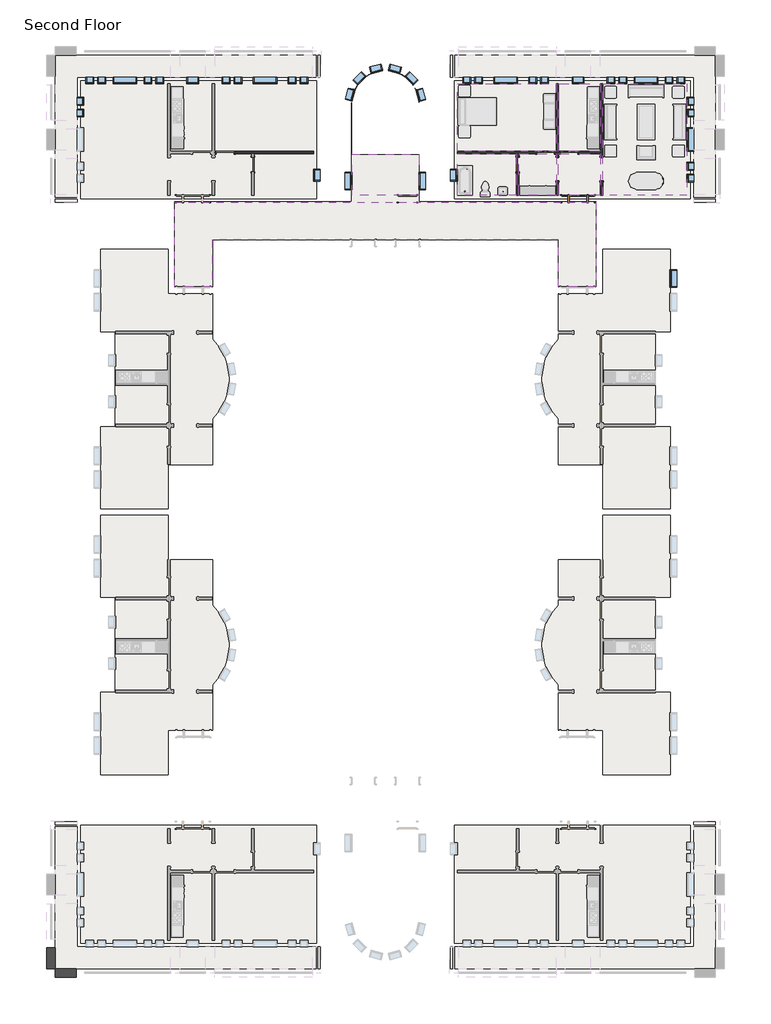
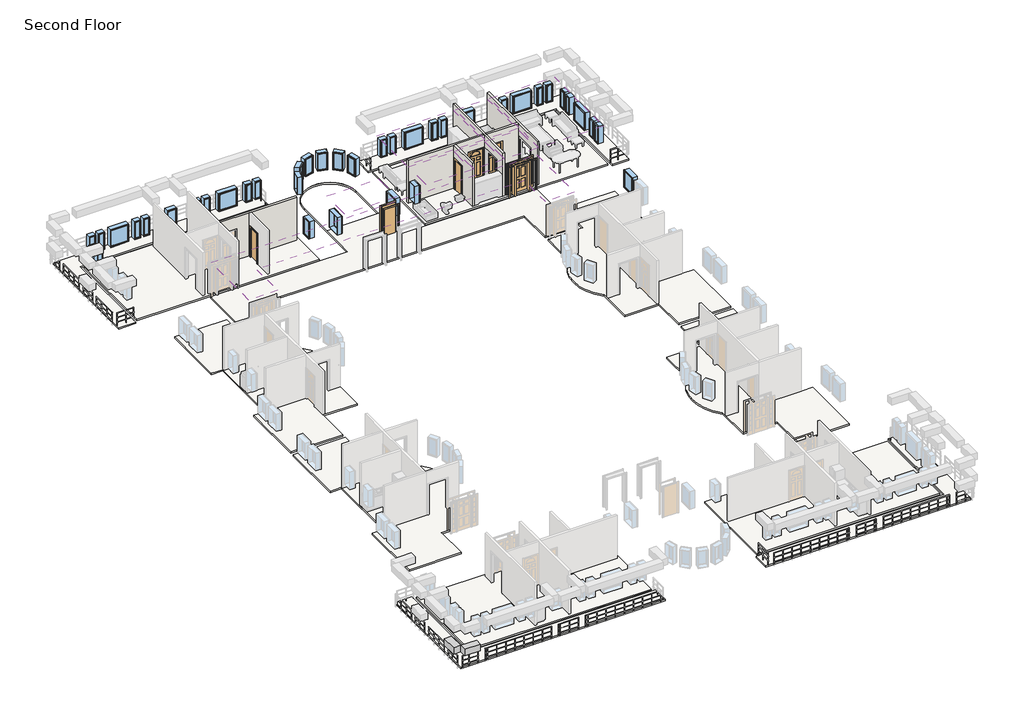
# One storey, part 3 of 5: 40 windows, 13 slabs, 8 coverings, 6 doors, 6 walls, 2 beams.
"""IFC4 building model written with IfcOpenShell, lengths in millimetres."""

from ifc_helpers import new_model, si_unit, point, frame, frame_2d, origin, place, context, project, spatial, polyline, circle_curve, trimmed, segment, composite_curve, outline, extrude, faceted_brep, transform, mapped, element, save
from components import door_829da954, door_2e3b4da2, door_4d6c7550, door_e36758a9, door_632be17d, door_dba5aa2e, window_da97879f, window_d61ef850, window_60baf983, window_ed80354a, window_15c49d37, window_0e2fc6ce, window_6eb97611, window_d89bf842

model = new_model("IFC4")

# Units and contexts
model_context = context("Model", 3, world=origin())
ifc_project = project(units=[si_unit("LENGTHUNIT", "METRE", prefix="MILLI")], contexts=[model_context])

# Site, building, storey
site = spatial("IfcSite", under=ifc_project)
building = spatial("IfcBuilding", under=site)
storey = spatial("IfcBuildingStorey", under=building, Name="Second Floor", Elevation=3048.0)

# Beams
placement = place(None, origin())
element("IfcBeam", 1, ObjectType="Concrete-Rectangular Beam : 18 x 18", at=placement, inside=storey, context=model_context, shape_type="SweptSolid", body=[
    extrude(outline(polyline([(-30897.4839563, -35349.9683133), (-30897.4839563, -35807.1683133), (-31964.2839563, -35807.1683133), (-31964.2839563, -35349.9683133), (-30897.4839563, -35349.9683133)])), frame((0.0, 0.0, 4114.8), z_axis=(0.0, 0.0, 1.0), x_axis=(1.0, 0.0, 0.0)), (0.0, 0.0, 1.0), 457.2),
])
element("IfcBeam", 2, ObjectType="Concrete-Rectangular Beam : 18 x 18", at=placement, inside=storey, context=model_context, shape_type="SweptSolid", body=[
    extrude(outline(polyline([(-32421.4839563, -34283.1683133), (-31964.2839563, -34283.1683133), (-31964.2839563, -35349.9683133), (-32421.4839563, -35349.9683133), (-32421.4839563, -34283.1683133)])), frame((0.0, 0.0, 4114.8), z_axis=(0.0, 0.0, 1.0), x_axis=(1.0, 0.0, 0.0)), (0.0, 0.0, 1.0), 457.2),
])

# Coverings
element("IfcCovering", 3, ObjectType="GWB on Mtl. Stud", at=placement, inside=storey, context=model_context, shape_type="SweptSolid", body=[
    extrude(outline(polyline([(-11217.2464563, 10270.0191867), (-6122.9589563, 10270.0191867), (-6122.9589563, 6787.0441867), (-11217.2464563, 6787.0441867), (-11217.2464563, 10270.0191867)])), frame((0.0, 0.0, 5638.8), z_axis=(0.0, 0.0, 1.0), x_axis=(1.0, 0.0, 0.0)), (0.0, 0.0, 1.0), 107.95),
])
element("IfcCovering", 4, ObjectType="GWB on Mtl. Stud", at=placement, inside=storey, context=model_context, shape_type="SweptSolid", body=[
    extrude(outline(polyline([(-5995.9589563, 6787.0441867), (-5995.9589563, 10270.0191867), (-3836.9589563, 10270.0191867), (-3836.9589563, 6787.0441867), (-5995.9589563, 6787.0441867)])), frame((0.0, 0.0, 5638.8), z_axis=(0.0, 0.0, 1.0), x_axis=(1.0, 0.0, 0.0)), (0.0, 0.0, 1.0), 107.95),
])
element("IfcCovering", 5, ObjectType="GWB on Mtl. Stud", at=placement, inside=storey, context=model_context, shape_type="SweptSolid", body=[
    extrude(outline(polyline([(-3709.9589563, 4526.4441867), (-3709.9589563, 10270.0191867), (622.3285437, 10270.0191867), (622.3285437, 4526.4441867), (-3709.9589563, 4526.4441867)])), frame((0.0, 0.0, 5638.8), z_axis=(0.0, 0.0, 1.0), x_axis=(1.0, 0.0, 0.0)), (0.0, 0.0, 1.0), 107.95),
])
element("IfcCovering", 6, ObjectType="GWB on Mtl. Stud", at=placement, inside=storey, context=model_context, shape_type="SweptSolid", body=[
    extrude(outline(polyline([(-3836.9589563, 4526.4441867), (-5995.9589563, 4526.4441867), (-5995.9589563, 6660.0441867), (-3836.9589563, 6660.0441867), (-3836.9589563, 4526.4441867)])), frame((0.0, 0.0, 5638.8), z_axis=(0.0, 0.0, 1.0), x_axis=(1.0, 0.0, 0.0)), (0.0, 0.0, 1.0), 107.95),
])
element("IfcCovering", 7, ObjectType="GWB on Mtl. Stud", at=placement, inside=storey, context=model_context, shape_type="SweptSolid", body=[
    extrude(outline(polyline([(-6122.9589563, 4526.4441867), (-8042.2464563, 4526.4441867), (-8042.2464563, 6660.0441867), (-6122.9589563, 6660.0441867), (-6122.9589563, 4526.4441867)])), frame((0.0, 0.0, 5638.8), z_axis=(0.0, 0.0, 1.0), x_axis=(1.0, 0.0, 0.0)), (0.0, 0.0, 1.0), 107.95),
])
element("IfcCovering", 8, ObjectType="GWB on Mtl. Stud", at=placement, inside=storey, context=model_context, shape_type="SweptSolid", body=[
    extrude(outline(polyline([(-8169.2464563, 6660.0441867), (-8169.2464563, 4526.4441867), (-11217.2464563, 4526.4441867), (-11217.2464563, 6660.0441867), (-8169.2464563, 6660.0441867)])), frame((0.0, 0.0, 5638.8), z_axis=(0.0, 0.0, 1.0), x_axis=(1.0, 0.0, 0.0)), (0.0, 0.0, 1.0), 107.95),
])
element("IfcCovering", 9, ObjectType="GWB on Mtl. Stud", at=placement, inside=storey, context=model_context, shape_type="SweptSolid", body=[
    extrude(outline(polyline([(-13206.3839563, 4526.4441867), (-16663.9589563, 4526.4441867), (-16663.9589563, 6636.2316867), (-13206.3839563, 6636.2316867), (-13206.3839563, 4526.4441867)])), frame((0.0, 0.0, 5486.4), z_axis=(0.0, 0.0, 1.0), x_axis=(1.0, 0.0, 0.0)), (0.0, 0.0, 1.0), 107.95),
])
element("IfcCovering", 10, ObjectType="GWB on Mtl. Stud", at=placement, inside=storey, context=model_context, shape_type="SweptSolid", body=[
    extrude(outline(polyline([(-5995.9589563, -197.9558133), (-5995.9589563, 2240.4441867), (-23874.3839563, 2240.4441867), (-23874.3839563, -197.9558133), (-25807.9589563, -197.9558133), (-25807.9589563, 4174.0191867), (-4062.3839563, 4174.0191867), (-4062.3839563, -197.9558133), (-5995.9589563, -197.9558133)])), frame((0.0, 0.0, 5486.4), z_axis=(0.0, 0.0, 1.0), x_axis=(1.0, 0.0, 0.0)), (0.0, 0.0, 1.0), 107.95),
])

# Doors
door_shape = door_829da954(model_context)
element("IfcDoor", 11, ObjectType="Single-Decorative 2 : 36\" x 84\"", at=placement, inside=storey, context=model_context, shape_type="MappedRepresentation", body=[
    mapped(door_shape, transform((-5449.8589563, 6723.5441867, 3048.0), x_axis=(-1.0, 0.0, 0.0), y_axis=(0.0, -1.0, 0.0), z_axis=(0.0, 0.0, 1.0))),
])
door_2_shape = door_2e3b4da2(model_context)
element("IfcDoor", 12, ObjectType="Single-Decorative 2 : 36\" x 84\"", at=placement, inside=storey, context=model_context, shape_type="MappedRepresentation", body=[
    mapped(door_2_shape, transform((-6669.0589563, 6723.5441867, 3048.0), x_axis=(1.0, 0.0, 0.0), y_axis=(0.0, 1.0, 0.0), z_axis=(0.0, 0.0, 1.0))),
])
door_3_shape = door_4d6c7550(model_context)
element("IfcDoor", 13, ObjectType="Single-Flush : 30\" x 84\"", at=placement, inside=storey, context=model_context, shape_type="MappedRepresentation", body=[
    mapped(door_3_shape, transform((-8105.7464563, 6113.9441867, 3048.0), x_axis=(0.0, 1.0, 0.0), y_axis=(-1.0, 0.0, 0.0), z_axis=(0.0, 0.0, 1.0))),
])
door_4_shape = door_e36758a9(model_context)
element("IfcDoor", 14, ObjectType="Single-Flush : 30\" x 84\"", at=placement, inside=storey, context=model_context, shape_type="MappedRepresentation", body=[
    mapped(door_4_shape, transform((-21764.5964563, 6113.9441867, 3048.0), x_axis=(0.0, 1.0, 0.0), y_axis=(-1.0, 0.0, 0.0), z_axis=(0.0, 0.0, 1.0))),
])
door_5_shape = door_632be17d(model_context)
element("IfcDoor", 15, ObjectType="Single-Flush : 36\" x 84\"", at=placement, inside=storey, context=model_context, shape_type="MappedRepresentation", body=[
    mapped(door_5_shape, transform((-13792.1714563, 4350.2316867, 3048.0), x_axis=(1.0, 0.0, 0.0), y_axis=(0.0, 1.0, 0.0), z_axis=(0.0, 0.0, 1.0))),
])
door_6_shape = door_dba5aa2e(model_context)
element("IfcDoor", 16, ObjectType="Single-Raised Panel with Sidelights : 36\" x 84\"", at=placement, inside=storey, context=model_context, shape_type="MappedRepresentation", body=[
    mapped(door_6_shape, transform((-4992.6589563, 4350.2316867, 3048.0), x_axis=(-1.0, 0.0, 0.0), y_axis=(0.0, -1.0, 0.0), z_axis=(0.0, 0.0, 1.0))),
])

# Slabs
element("IfcSlab", 17, ObjectType="LW Concrete on Metal Deck", at=placement, inside=storey, context=model_context, shape_type="SweptSolid", body=[
    extrude(outline(polyline([(787.4285437, 10435.1191867), (787.4285437, 4361.3441867), (-11382.3464563, 4361.3441867), (-11382.3464563, 10435.1191867), (787.4285437, 10435.1191867)])), frame((0.0, 0.0, 2943.225), z_axis=(0.0, 0.0, 1.0), x_axis=(1.0, 0.0, 0.0)), (0.0, 0.0, 1.0), 104.775),
])
element("IfcSlab", 18, ObjectType="LW Concrete on Metal Deck", at=placement, inside=storey, context=model_context, shape_type="SweptSolid", body=[
    extrude(outline(polyline([(2093.9410437, 11741.6316867), (2093.9410437, 4174.0191867), (974.7535437, 4174.0191867), (974.7535437, 10622.4441867), (-11569.6714563, 10622.4441867), (-11569.6714563, 11741.6316867), (2093.9410437, 11741.6316867)])), frame((0.0, 0.0, 2943.225), z_axis=(0.0, 0.0, 1.0), x_axis=(1.0, 0.0, 0.0)), (0.0, 0.0, 1.0), 104.775),
])
element("IfcSlab", 19, ObjectType="LW Concrete on Metal Deck", at=placement, inside=storey, context=model_context, shape_type="SweptSolid", body=[
    extrude(outline(composite_curve([segment(polyline([(-13193.6839563, 9227.0316867), (-13193.6839563, 4186.7191867), (-4062.3839563, 4186.7191867), (-4062.3839563, -197.9558133), (-6008.6589563, -197.9558133), (-6008.6589563, 2227.7441867), (-23861.6839563, 2227.7441867), (-23861.6839563, -197.9558133), (-25807.9589563, -197.9558133), (-25807.9589563, 4186.7191867), (-16676.6589563, 4186.7191867), (-16676.6589563, 9227.0316867)]), True, "CONTINUOUS"), segment(trimmed(circle_curve(frame_2d((-14935.1714563, 9227.0316867)), 1741.4875), [point((-16676.6589563, 9227.0316867))], [point((-13193.6839563, 9227.0316867))], False, "CARTESIAN"), True, "CONTINUOUS")], self_intersect=False), holes=[composite_curve([segment(polyline([(-16663.9589563, 6636.2316867), (-13206.3839563, 6636.2316867), (-13206.3839563, 9227.0316867)]), True, "CONTINUOUS"), segment(trimmed(circle_curve(frame_2d((-14935.1714563, 9227.0316867)), 1728.7875), [point((-13206.3839563, 9227.0316867))], [point((-16663.9589563, 9227.0316867))], True, "CARTESIAN"), True, "CONTINUOUS"), segment(polyline([(-16663.9589563, 9227.0316867), (-16663.9589563, 6636.2316867)]), True, "CONTINUOUS")], self_intersect=False)]), frame((0.0, 0.0, 2943.225), z_axis=(0.0, 0.0, 1.0), x_axis=(1.0, 0.0, 0.0)), (0.0, 0.0, 1.0), 104.775),
])
element("IfcSlab", 20, ObjectType="LW Concrete on Metal Deck", at=placement, inside=storey, context=model_context, shape_type="SweptSolid", body=[
    extrude(outline(composite_curve([segment(polyline([(-239.6839563, -7395.6808133), (-239.6839563, -11640.6558133), (-3722.6589563, -11640.6558133), (-3722.6589563, -9354.6558133), (-6008.6589563, -9354.6558133), (-6008.6589563, -6994.1453152)]), True, "CONTINUOUS"), segment(trimmed(circle_curve(frame_2d((-3995.4640713, -4946.1683133)), 2871.7875), [point((-6008.6589563, -6994.1453152))], [point((-6008.6589563, -2898.1913115))], False, "CARTESIAN"), True, "CONTINUOUS"), segment(polyline([(-6008.6589563, -2898.1913115), (-6008.6589563, -537.6808133), (-3722.6589563, -537.6808133), (-3722.6589563, 1748.3191867), (-239.6839563, 1748.3191867), (-239.6839563, -2496.6558133), (-1001.6839563, -2496.6558133), (-1001.6839563, -7395.6808133), (-239.6839563, -7395.6808133)]), True, "CONTINUOUS")], self_intersect=False)), frame((0.0, 0.0, 2943.225), z_axis=(0.0, 0.0, 1.0), x_axis=(1.0, 0.0, 0.0)), (0.0, 0.0, 1.0), 104.775),
])
element("IfcSlab", 21, ObjectType="LW Concrete on Metal Deck", at=placement, inside=storey, context=model_context, shape_type="SweptSolid", body=[
    extrude(outline(polyline([(-30657.7714563, 10435.1191867), (-18487.9964563, 10435.1191867), (-18487.9964563, 4361.3441867), (-30657.7714563, 4361.3441867), (-30657.7714563, 10435.1191867)])), frame((0.0, 0.0, 2943.225), z_axis=(0.0, 0.0, 1.0), x_axis=(1.0, 0.0, 0.0)), (0.0, 0.0, 1.0), 104.775),
])
element("IfcSlab", 22, ObjectType="LW Concrete on Metal Deck", at=placement, inside=storey, context=model_context, shape_type="SweptSolid", body=[
    extrude(outline(composite_curve([segment(polyline([(-29630.6589563, -7395.6808133), (-28868.6589563, -7395.6808133), (-28868.6589563, -2496.6558133), (-29630.6589563, -2496.6558133), (-29630.6589563, 1748.3191867), (-26147.6839563, 1748.3191867), (-26147.6839563, -537.6808133), (-23861.6839563, -537.6808133), (-23861.6839563, -2898.1913115)]), True, "CONTINUOUS"), segment(trimmed(circle_curve(frame_2d((-25874.8788413, -4946.1683133)), 2871.7875), [point((-23861.6839563, -2898.1913115))], [point((-23861.6839563, -6994.1453152))], False, "CARTESIAN"), True, "CONTINUOUS"), segment(polyline([(-23861.6839563, -6994.1453152), (-23861.6839563, -9354.6558133), (-26147.6839563, -9354.6558133), (-26147.6839563, -11640.6558133), (-29630.6589563, -11640.6558133), (-29630.6589563, -7395.6808133)]), True, "CONTINUOUS")], self_intersect=False)), frame((0.0, 0.0, 2943.225), z_axis=(0.0, 0.0, 1.0), x_axis=(1.0, 0.0, 0.0)), (0.0, 0.0, 1.0), 104.775),
])
element("IfcSlab", 23, ObjectType="LW Concrete on Metal Deck", at=placement, inside=storey, context=model_context, shape_type="SweptSolid", body=[
    extrude(outline(polyline([(-31964.2839563, 11741.6316867), (-18300.6714563, 11741.6316867), (-18300.6714563, 10622.4441867), (-30845.0964563, 10622.4441867), (-30845.0964563, 4174.0191867), (-31964.2839563, 4174.0191867), (-31964.2839563, 11741.6316867)])), frame((0.0, 0.0, 2943.225), z_axis=(0.0, 0.0, 1.0), x_axis=(1.0, 0.0, 0.0)), (0.0, 0.0, 1.0), 104.775),
])
element("IfcSlab", 24, ObjectType="LW Concrete on Metal Deck", at=placement, inside=storey, context=model_context, shape_type="SweptSolid", body=[
    extrude(outline(polyline([(787.4285437, -34043.4558133), (-11382.3464563, -34043.4558133), (-11382.3464563, -27969.6808133), (787.4285437, -27969.6808133), (787.4285437, -34043.4558133)])), frame((0.0, 0.0, 2943.225), z_axis=(0.0, 0.0, 1.0), x_axis=(1.0, 0.0, 0.0)), (0.0, 0.0, 1.0), 104.775),
])
element("IfcSlab", 25, ObjectType="LW Concrete on Metal Deck", at=placement, inside=storey, context=model_context, shape_type="SweptSolid", body=[
    extrude(outline(composite_curve([segment(polyline([(-239.6839563, -16212.6558133), (-1001.6839563, -16212.6558133), (-1001.6839563, -21111.6808133), (-239.6839563, -21111.6808133), (-239.6839563, -25356.6558133), (-3722.6589563, -25356.6558133), (-3722.6589563, -23070.6558133), (-6008.6589563, -23070.6558133), (-6008.6589563, -20710.1453152)]), True, "CONTINUOUS"), segment(trimmed(circle_curve(frame_2d((-3995.4640713, -18662.1683133)), 2871.7875), [point((-6008.6589563, -20710.1453152))], [point((-6008.6589563, -16614.1913115))], False, "CARTESIAN"), True, "CONTINUOUS"), segment(polyline([(-6008.6589563, -16614.1913115), (-6008.6589563, -14253.6808133), (-3722.6589563, -14253.6808133), (-3722.6589563, -11967.6808133), (-239.6839563, -11967.6808133), (-239.6839563, -16212.6558133)]), True, "CONTINUOUS")], self_intersect=False)), frame((0.0, 0.0, 2943.225), z_axis=(0.0, 0.0, 1.0), x_axis=(1.0, 0.0, 0.0)), (0.0, 0.0, 1.0), 104.775),
])
element("IfcSlab", 26, ObjectType="LW Concrete on Metal Deck", at=placement, inside=storey, context=model_context, shape_type="SweptSolid", body=[
    extrude(outline(polyline([(-30657.7714563, -34043.4558133), (-30657.7714563, -27969.6808133), (-18487.9964563, -27969.6808133), (-18487.9964563, -34043.4558133), (-30657.7714563, -34043.4558133)])), frame((0.0, 0.0, 2943.225), z_axis=(0.0, 0.0, 1.0), x_axis=(1.0, 0.0, 0.0)), (0.0, 0.0, 1.0), 104.775),
])
element("IfcSlab", 27, ObjectType="LW Concrete on Metal Deck", at=placement, inside=storey, context=model_context, shape_type="SweptSolid", body=[
    extrude(outline(composite_curve([segment(polyline([(-29630.6589563, -16212.6558133), (-29630.6589563, -11967.6808133), (-26147.6839563, -11967.6808133), (-26147.6839563, -14253.6808133), (-23861.6839563, -14253.6808133), (-23861.6839563, -16614.1913115)]), True, "CONTINUOUS"), segment(trimmed(circle_curve(frame_2d((-25874.8788413, -18662.1683133)), 2871.7875), [point((-23861.6839563, -16614.1913115))], [point((-23861.6839563, -20710.1453152))], False, "CARTESIAN"), True, "CONTINUOUS"), segment(polyline([(-23861.6839563, -20710.1453152), (-23861.6839563, -23070.6558133), (-26147.6839563, -23070.6558133), (-26147.6839563, -25356.6558133), (-29630.6589563, -25356.6558133), (-29630.6589563, -21111.6808133), (-28868.6589563, -21111.6808133), (-28868.6589563, -16212.6558133), (-29630.6589563, -16212.6558133)]), True, "CONTINUOUS")], self_intersect=False)), frame((0.0, 0.0, 2943.225), z_axis=(0.0, 0.0, 1.0), x_axis=(1.0, 0.0, 0.0)), (0.0, 0.0, 1.0), 104.775),
])
element("IfcSlab", 28, ObjectType="LW Concrete on Metal Deck", at=placement, inside=storey, context=model_context, shape_type="SweptSolid", body=[
    extrude(outline(polyline([(2093.9410437, -35349.9683133), (-11569.6714563, -35349.9683133), (-11569.6714563, -34230.7808133), (974.7535437, -34230.7808133), (974.7535437, -27782.3558133), (2093.9410437, -27782.3558133), (2093.9410437, -35349.9683133)])), frame((0.0, 0.0, 2943.225), z_axis=(0.0, 0.0, 1.0), x_axis=(1.0, 0.0, 0.0)), (0.0, 0.0, 1.0), 104.775),
])
element("IfcSlab", 29, ObjectType="LW Concrete on Metal Deck", at=placement, inside=storey, context=model_context, shape_type="SweptSolid", body=[
    extrude(outline(polyline([(-31964.2839563, -35349.9683133), (-31964.2839563, -27782.3558133), (-30845.0964563, -27782.3558133), (-30845.0964563, -34230.7808133), (-18300.6714563, -34230.7808133), (-18300.6714563, -35349.9683133), (-31964.2839563, -35349.9683133)])), frame((0.0, 0.0, 2943.225), z_axis=(0.0, 0.0, 1.0), x_axis=(1.0, 0.0, 0.0)), (0.0, 0.0, 1.0), 104.775),
])

# Walls
element("IfcWall", 30, ObjectType="Interior - 5\" Partition (2-hr)", at=placement, inside=storey, context=model_context, shape_type="Brep", body=[
    faceted_brep([(-3836.9589563, 10270.0191867, 3048.0), (-3836.9589563, 6787.0441867, 3048.0), (-3836.9589563, 6660.0441867, 3048.0), (-3836.9589563, 6483.8316867, 3048.0), (-3836.9589563, 6483.8316867, 5181.6), (-3836.9589563, 5264.6316867, 5181.6), (-3836.9589563, 5264.6316867, 3048.0), (-3836.9589563, 4526.4441867, 3048.0), (-3836.9589563, 4526.4441867, 6096.0), (-3836.9589563, 6660.0441867, 6096.0), (-3836.9589563, 6787.0441867, 6096.0), (-3836.9589563, 10270.0191867, 6096.0), (-3709.9589563, 6483.8316867, 5181.6), (-3709.9589563, 6483.8316867, 3048.0), (-3709.9589563, 10270.0191867, 3048.0), (-3709.9589563, 10270.0191867, 6096.0), (-3709.9589563, 4526.4441867, 6096.0), (-3709.9589563, 4526.4441867, 3048.0), (-3709.9589563, 5264.6316867, 3048.0), (-3709.9589563, 5264.6316867, 5181.6)], [[[0, 1, 2, 3, 4, 5, 6, 7, 8, 9, 10, 11]], [[12, 13, 14, 15, 16, 17, 18, 19]], [[14, 13, 3, 2, 1, 0]], [[18, 17, 7, 6]], [[11, 10, 9, 8, 16, 15]], [[0, 11, 15, 14]], [[8, 7, 17, 16]], [[6, 5, 19, 18]], [[4, 3, 13, 12]], [[5, 4, 12, 19]]]),
])
element("IfcWall", 31, ObjectType="Interior - 5\" Partition (2-hr)", at=placement, inside=storey, context=model_context, shape_type="Brep", body=[
    faceted_brep([(-6122.9589563, 4526.4441867, 3048.0), (-6122.9589563, 5264.6316867, 3048.0), (-5995.9589563, 5264.6316867, 3048.0), (-5995.9589563, 4526.4441867, 3048.0), (-6122.9589563, 6483.8316867, 3048.0), (-6122.9589563, 6660.0441867, 3048.0), (-6122.9589563, 6787.0441867, 3048.0), (-6122.9589563, 10270.0191867, 3048.0), (-5995.9589563, 10270.0191867, 3048.0), (-5995.9589563, 6787.0441867, 3048.0), (-5995.9589563, 6660.0441867, 3048.0), (-5995.9589563, 6483.8316867, 3048.0), (-6122.9589563, 10270.0191867, 6096.0), (-6122.9589563, 6787.0441867, 6096.0), (-6122.9589563, 6660.0441867, 6096.0), (-6122.9589563, 4526.4441867, 6096.0), (-5995.9589563, 4526.4441867, 6096.0), (-5995.9589563, 6660.0441867, 6096.0), (-5995.9589563, 6787.0441867, 6096.0), (-5995.9589563, 10270.0191867, 6096.0), (-6122.9589563, 5264.6316867, 5181.6), (-6122.9589563, 6483.8316867, 5181.6), (-5995.9589563, 5264.6316867, 5181.6), (-5995.9589563, 6483.8316867, 5181.6)], [[[0, 1, 2, 3]], [[4, 5, 6, 7, 8, 9, 10, 11]], [[12, 13, 14, 15, 16, 17, 18, 19]], [[20, 1, 0, 15, 14, 13, 12, 7, 6, 5, 4, 21]], [[3, 2, 22, 23, 11, 10, 9, 8, 19, 18, 17, 16]], [[7, 12, 19, 8]], [[15, 0, 3, 16]], [[11, 23, 21, 4]], [[22, 2, 1, 20]], [[23, 22, 20, 21]]]),
])
element("IfcWall", 32, ObjectType="Interior - 5\" Partition (2-hr)", at=placement, inside=storey, context=model_context, shape_type="Brep", body=[
    faceted_brep([(-6122.9589563, 6660.0441867, 3048.0), (-6211.8589563, 6660.0441867, 3048.0), (-6211.8589563, 6787.0441867, 3048.0), (-6122.9589563, 6787.0441867, 3048.0), (-7126.2589563, 6660.0441867, 3048.0), (-8042.2464563, 6660.0441867, 3048.0), (-8169.2464563, 6660.0441867, 3048.0), (-11217.2464563, 6660.0441867, 3048.0), (-11217.2464563, 6787.0441867, 3048.0), (-7126.2589563, 6787.0441867, 3048.0), (-11217.2464563, 6660.0441867, 6096.0), (-8169.2464563, 6660.0441867, 6096.0), (-8042.2464563, 6660.0441867, 6096.0), (-6122.9589563, 6660.0441867, 6096.0), (-6122.9589563, 6787.0441867, 6096.0), (-11217.2464563, 6787.0441867, 6096.0), (-6211.8589563, 6660.0441867, 5181.6), (-7126.2589563, 6660.0441867, 5181.6), (-6211.8589563, 6787.0441867, 5181.6), (-7126.2589563, 6787.0441867, 5181.6)], [[[0, 1, 2, 3]], [[4, 5, 6, 7, 8, 9]], [[10, 11, 12, 13, 14, 15]], [[16, 1, 0, 13, 12, 11, 10, 7, 6, 5, 4, 17]], [[3, 2, 18, 19, 9, 8, 15, 14]], [[13, 0, 3, 14]], [[7, 10, 15, 8]], [[18, 2, 1, 16]], [[19, 18, 16, 17]], [[9, 19, 17, 4]]]),
])
element("IfcWall", 33, ObjectType="Interior - 5\" Partition (2-hr)", at=placement, inside=storey, context=model_context, shape_type="SweptSolid", body=[
    extrude(outline(polyline([(6660.0441867, 3048.0), (6494.9441867, 3048.0), (6494.9441867, 5181.6), (5732.9441867, 5181.6), (5732.9441867, 3048.0), (4526.4441867, 3048.0), (4526.4441867, 6096.0), (6660.0441867, 6096.0), (6660.0441867, 3048.0)])), frame((-8169.2464563, 0.0, 0.0), z_axis=(1.0, 0.0, 0.0), x_axis=(0.0, 1.0, 0.0)), (0.0, 0.0, 1.0), 127.0),
])
element("IfcWall", 34, ObjectType="Interior - 5\" Partition (2-hr)", at=placement, inside=storey, context=model_context, shape_type="SweptSolid", body=[
    extrude(outline(polyline([(3048.0, -5995.9589563), (3048.0, -5907.0589563), (5181.6, -5907.0589563), (5181.6, -4992.6589563), (3048.0, -4992.6589563), (3048.0, -3836.9589563), (6096.0, -3836.9589563), (6096.0, -5995.9589563), (3048.0, -5995.9589563)])), frame((0.0, 6660.0441867, 0.0), z_axis=(0.0, 1.0, 0.0), x_axis=(0.0, 0.0, 1.0)), (0.0, 0.0, 1.0), 127.0),
])
element("IfcWall", 35, ObjectType="Interior - 5\" Partition (2-hr)", at=placement, inside=storey, context=model_context, shape_type="Brep", body=[
    faceted_brep([(-23658.4839563, 6787.0441867, 5181.6), (-23658.4839563, 6787.0441867, 3048.0), (-23747.3839563, 6787.0441867, 3048.0), (-23747.3839563, 6787.0441867, 6096.0), (-18653.0964563, 6787.0441867, 6096.0), (-18653.0964563, 6787.0441867, 3048.0), (-22744.0839563, 6787.0441867, 3048.0), (-22744.0839563, 6787.0441867, 5181.6), (-23747.3839563, 6660.0441867, 3048.0), (-23658.4839563, 6660.0441867, 3048.0), (-23658.4839563, 6660.0441867, 5181.6), (-22744.0839563, 6660.0441867, 5181.6), (-22744.0839563, 6660.0441867, 3048.0), (-21828.0964563, 6660.0441867, 3048.0), (-21701.0964563, 6660.0441867, 3048.0), (-18653.0964563, 6660.0441867, 3048.0), (-18653.0964563, 6660.0441867, 6096.0), (-21701.0964563, 6660.0441867, 6096.0), (-21828.0964563, 6660.0441867, 6096.0), (-23747.3839563, 6660.0441867, 6096.0)], [[[0, 1, 2, 3, 4, 5, 6, 7]], [[8, 9, 10, 11, 12, 13, 14, 15, 16, 17, 18, 19]], [[2, 1, 9, 8]], [[6, 5, 15, 14, 13, 12]], [[4, 3, 19, 18, 17, 16]], [[3, 2, 8, 19]], [[5, 4, 16, 15]], [[10, 9, 1, 0]], [[11, 10, 0, 7]], [[12, 11, 7, 6]]]),
])

# Windows
window_shape = window_da97879f(model_context)
element("IfcWindow", 36, ObjectType="Fixed : 16\" x 48\"", at=placement, inside=storey, context=model_context, shape_type="MappedRepresentation", body=[
    mapped(window_shape, transform((-10771.1589563, 10446.2316867, 3048.0), x_axis=(-1.0, 0.0, 0.0), y_axis=(0.0, -1.0, 0.0), z_axis=(0.0, 0.0, 1.0))),
])
element("IfcWindow", 37, ObjectType="Fixed : 16\" x 48\"", at=placement, inside=storey, context=model_context, shape_type="MappedRepresentation", body=[
    mapped(window_shape, transform((-10161.5589563, 10446.2316867, 3048.0), x_axis=(-1.0, 0.0, 0.0), y_axis=(0.0, -1.0, 0.0), z_axis=(0.0, 0.0, 1.0))),
])
element("IfcWindow", 38, ObjectType="Fixed : 16\" x 48\"", at=placement, inside=storey, context=model_context, shape_type="MappedRepresentation", body=[
    mapped(window_shape, transform((-3328.9589563, 10446.2316867, 3048.0), x_axis=(-1.0, 0.0, 0.0), y_axis=(0.0, -1.0, 0.0), z_axis=(0.0, 0.0, 1.0))),
])
element("IfcWindow", 39, ObjectType="Fixed : 16\" x 48\"", at=placement, inside=storey, context=model_context, shape_type="MappedRepresentation", body=[
    mapped(window_shape, transform((-2719.3589563, 10446.2316867, 3048.0), x_axis=(-1.0, 0.0, 0.0), y_axis=(0.0, -1.0, 0.0), z_axis=(0.0, 0.0, 1.0))),
])
element("IfcWindow", 40, ObjectType="Fixed : 16\" x 48\"", at=placement, inside=storey, context=model_context, shape_type="MappedRepresentation", body=[
    mapped(window_shape, transform((798.5410437, 9417.5316867, 3048.0), x_axis=(0.0, 1.0, 0.0), y_axis=(-1.0, 0.0, 0.0), z_axis=(0.0, 0.0, 1.0))),
])
element("IfcWindow", 41, ObjectType="Fixed : 16\" x 48\"", at=placement, inside=storey, context=model_context, shape_type="MappedRepresentation", body=[
    mapped(window_shape, transform((798.5410437, 8807.9316867, 3048.0), x_axis=(0.0, 1.0, 0.0), y_axis=(-1.0, 0.0, 0.0), z_axis=(0.0, 0.0, 1.0))),
])
element("IfcWindow", 42, ObjectType="Fixed : 16\" x 48\"", at=placement, inside=storey, context=model_context, shape_type="MappedRepresentation", body=[
    mapped(window_shape, transform((-23188.5839563, 10446.2316867, 3048.0), x_axis=(-1.0, 0.0, 0.0), y_axis=(0.0, -1.0, 0.0), z_axis=(0.0, 0.0, 1.0))),
])
element("IfcWindow", 43, ObjectType="Fixed : 16\" x 48\"", at=placement, inside=storey, context=model_context, shape_type="MappedRepresentation", body=[
    mapped(window_shape, transform((-22578.9839563, 10446.2316867, 3048.0), x_axis=(-1.0, 0.0, 0.0), y_axis=(0.0, -1.0, 0.0), z_axis=(0.0, 0.0, 1.0))),
])
element("IfcWindow", 44, ObjectType="Fixed : 16\" x 48\"", at=placement, inside=storey, context=model_context, shape_type="MappedRepresentation", body=[
    mapped(window_shape, transform((-30224.3839563, 10446.2316867, 3048.0), x_axis=(-1.0, 0.0, 0.0), y_axis=(0.0, -1.0, 0.0), z_axis=(0.0, 0.0, 1.0))),
])
element("IfcWindow", 45, ObjectType="Fixed : 16\" x 48\"", at=placement, inside=storey, context=model_context, shape_type="MappedRepresentation", body=[
    mapped(window_shape, transform((-29614.7839563, 10446.2316867, 3048.0), x_axis=(-1.0, 0.0, 0.0), y_axis=(0.0, -1.0, 0.0), z_axis=(0.0, 0.0, 1.0))),
])
window_2_shape = window_d61ef850(model_context)
element("IfcWindow", 46, ObjectType="Fixed : 16\" x 48\"", at=placement, inside=storey, context=model_context, shape_type="MappedRepresentation", body=[
    mapped(window_2_shape, transform((-6681.7589563, 10446.2316867, 3048.0), x_axis=(1.0, 0.0, 0.0), y_axis=(0.0, 1.0, 0.0), z_axis=(0.0, 0.0, 1.0))),
])
element("IfcWindow", 47, ObjectType="Fixed : 16\" x 48\"", at=placement, inside=storey, context=model_context, shape_type="MappedRepresentation", body=[
    mapped(window_2_shape, transform((-7291.3589563, 10446.2316867, 3048.0), x_axis=(1.0, 0.0, 0.0), y_axis=(0.0, 1.0, 0.0), z_axis=(0.0, 0.0, 1.0))),
])
element("IfcWindow", 48, ObjectType="Fixed : 16\" x 48\"", at=placement, inside=storey, context=model_context, shape_type="MappedRepresentation", body=[
    mapped(window_2_shape, transform((354.0410437, 10446.2316867, 3048.0), x_axis=(1.0, 0.0, 0.0), y_axis=(0.0, 1.0, 0.0), z_axis=(0.0, 0.0, 1.0))),
])
element("IfcWindow", 49, ObjectType="Fixed : 16\" x 48\"", at=placement, inside=storey, context=model_context, shape_type="MappedRepresentation", body=[
    mapped(window_2_shape, transform((-255.5589563, 10446.2316867, 3048.0), x_axis=(1.0, 0.0, 0.0), y_axis=(0.0, 1.0, 0.0), z_axis=(0.0, 0.0, 1.0))),
])
element("IfcWindow", 50, ObjectType="Fixed : 16\" x 48\"", at=placement, inside=storey, context=model_context, shape_type="MappedRepresentation", body=[
    mapped(window_2_shape, transform((798.5410437, 5378.9316867, 3048.0), x_axis=(0.0, -1.0, 0.0), y_axis=(1.0, 0.0, 0.0), z_axis=(0.0, 0.0, 1.0))),
])
element("IfcWindow", 51, ObjectType="Fixed : 16\" x 48\"", at=placement, inside=storey, context=model_context, shape_type="MappedRepresentation", body=[
    mapped(window_2_shape, transform((798.5410437, 5988.5316867, 3048.0), x_axis=(0.0, -1.0, 0.0), y_axis=(1.0, 0.0, 0.0), z_axis=(0.0, 0.0, 1.0))),
])
element("IfcWindow", 52, ObjectType="Fixed : 16\" x 48\"", at=placement, inside=storey, context=model_context, shape_type="MappedRepresentation", body=[
    mapped(window_2_shape, transform((-19099.1839563, 10446.2316867, 3048.0), x_axis=(1.0, 0.0, 0.0), y_axis=(0.0, 1.0, 0.0), z_axis=(0.0, 0.0, 1.0))),
])
element("IfcWindow", 53, ObjectType="Fixed : 16\" x 48\"", at=placement, inside=storey, context=model_context, shape_type="MappedRepresentation", body=[
    mapped(window_2_shape, transform((-19708.7839563, 10446.2316867, 3048.0), x_axis=(1.0, 0.0, 0.0), y_axis=(0.0, 1.0, 0.0), z_axis=(0.0, 0.0, 1.0))),
])
element("IfcWindow", 54, ObjectType="Fixed : 16\" x 48\"", at=placement, inside=storey, context=model_context, shape_type="MappedRepresentation", body=[
    mapped(window_2_shape, transform((-26541.3839563, 10446.2316867, 3048.0), x_axis=(1.0, 0.0, 0.0), y_axis=(0.0, 1.0, 0.0), z_axis=(0.0, 0.0, 1.0))),
])
element("IfcWindow", 55, ObjectType="Fixed : 16\" x 48\"", at=placement, inside=storey, context=model_context, shape_type="MappedRepresentation", body=[
    mapped(window_2_shape, transform((-27150.9839563, 10446.2316867, 3048.0), x_axis=(1.0, 0.0, 0.0), y_axis=(0.0, 1.0, 0.0), z_axis=(0.0, 0.0, 1.0))),
])
element("IfcWindow", 56, ObjectType="Fixed : 16\" x 48\"", at=placement, inside=storey, context=model_context, shape_type="MappedRepresentation", body=[
    mapped(window_2_shape, transform((-30668.8839563, 9417.5316867, 3048.0), x_axis=(0.0, 1.0, 0.0), y_axis=(-1.0, 0.0, 0.0), z_axis=(0.0, 0.0, 1.0))),
])
element("IfcWindow", 57, ObjectType="Fixed : 16\" x 48\"", at=placement, inside=storey, context=model_context, shape_type="MappedRepresentation", body=[
    mapped(window_2_shape, transform((-30668.8839563, 8807.9316867, 3048.0), x_axis=(0.0, 1.0, 0.0), y_axis=(-1.0, 0.0, 0.0), z_axis=(0.0, 0.0, 1.0))),
])
window_3_shape = window_60baf983(model_context)
element("IfcWindow", 58, ObjectType="Fixed : 24\" x 48\"", at=placement, inside=storey, context=model_context, shape_type="MappedRepresentation", body=[
    mapped(window_3_shape, transform((-5030.7589563, 10446.2316867, 3048.0), x_axis=(-1.0, 0.0, 0.0), y_axis=(0.0, -1.0, 0.0), z_axis=(0.0, 0.0, 1.0))),
])
element("IfcWindow", 59, ObjectType="Fixed : 24\" x 48\"", at=placement, inside=storey, context=model_context, shape_type="MappedRepresentation", body=[
    mapped(window_3_shape, transform((-11393.4589563, 5531.3316867, 3048.0), x_axis=(0.0, -1.0, 0.0), y_axis=(1.0, 0.0, 0.0), z_axis=(0.0, 0.0, 1.0))),
])
element("IfcWindow", 60, ObjectType="Fixed : 24\" x 48\"", at=placement, inside=storey, context=model_context, shape_type="MappedRepresentation", body=[
    mapped(window_3_shape, transform((-16762.064163, 9683.0417496, 3048.0), x_axis=(-0.26176149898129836, -0.9651325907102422, 0.0), y_axis=(0.9651325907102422, -0.26176149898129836, 0.0), z_axis=(0.0, 0.0, 1.0))),
])
element("IfcWindow", 61, ObjectType="Fixed : 24\" x 48\"", at=placement, inside=storey, context=model_context, shape_type="MappedRepresentation", body=[
    mapped(window_3_shape, transform((-16289.3019188, 10535.3943388, 3048.0), x_axis=(-0.7092584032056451, -0.7049485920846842, 0.0), y_axis=(0.7049485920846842, -0.7092584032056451, 0.0), z_axis=(0.0, 0.0, 1.0))),
])
element("IfcWindow", 62, ObjectType="Fixed : 24\" x 48\"", at=placement, inside=storey, context=model_context, shape_type="MappedRepresentation", body=[
    mapped(window_3_shape, transform((-15453.7015108, 11037.1722121, 3048.0), x_axis=(-0.9667100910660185, -0.25587418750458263, 0.0), y_axis=(0.25587418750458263, -0.9667100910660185, 0.0), z_axis=(0.0, 0.0, 1.0))),
])
element("IfcWindow", 63, ObjectType="Fixed : 24\" x 48\"", at=placement, inside=storey, context=model_context, shape_type="MappedRepresentation", body=[
    mapped(window_3_shape, transform((-14479.1613934, 11053.9243933, 3048.0), x_axis=(-0.9651325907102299, 0.2617614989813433, 0.0), y_axis=(-0.2617614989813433, -0.9651325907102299, 0.0), z_axis=(0.0, 0.0, 1.0))),
])
element("IfcWindow", 64, ObjectType="Fixed : 24\" x 48\"", at=placement, inside=storey, context=model_context, shape_type="MappedRepresentation", body=[
    mapped(window_3_shape, transform((-13626.8088042, 10581.1621492, 3048.0), x_axis=(-0.7049485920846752, 0.7092584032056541, 0.0), y_axis=(-0.7092584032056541, -0.7049485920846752, 0.0), z_axis=(0.0, 0.0, 1.0))),
])
element("IfcWindow", 65, ObjectType="Fixed : 24\" x 48\"", at=placement, inside=storey, context=model_context, shape_type="MappedRepresentation", body=[
    mapped(window_3_shape, transform((-13125.0309309, 9745.5617412, 3048.0), x_axis=(-0.25587418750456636, 0.9667100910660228, 0.0), y_axis=(-0.9667100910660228, -0.25587418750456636, 0.0), z_axis=(0.0, 0.0, 1.0))),
])
window_4_shape = window_ed80354a(model_context)
element("IfcWindow", 66, ObjectType="Fixed : 24\" x 48\"", at=placement, inside=storey, context=model_context, shape_type="MappedRepresentation", body=[
    mapped(window_4_shape, transform((-24839.5839563, 10446.2316867, 3048.0), x_axis=(1.0, 0.0, 0.0), y_axis=(0.0, 1.0, 0.0), z_axis=(0.0, 0.0, 1.0))),
])
element("IfcWindow", 67, ObjectType="Fixed : 24\" x 48\"", at=placement, inside=storey, context=model_context, shape_type="MappedRepresentation", body=[
    mapped(window_4_shape, transform((-18476.8839563, 5531.3316867, 3048.0), x_axis=(0.0, -1.0, 0.0), y_axis=(1.0, 0.0, 0.0), z_axis=(0.0, 0.0, 1.0))),
])
window_5_shape = window_15c49d37(model_context)
element("IfcWindow", 68, ObjectType="Fixed : 36\" x 48\"", at=placement, inside=storey, context=model_context, shape_type="MappedRepresentation", body=[
    mapped(window_5_shape, transform((-16840.1714563, 5226.5316867, 3048.0), x_axis=(0.0, -1.0, 0.0), y_axis=(1.0, 0.0, 0.0), z_axis=(0.0, 0.0, 1.0))),
])
element("IfcWindow", 69, ObjectType="Fixed : 36\" x 48\"", at=placement, inside=storey, context=model_context, shape_type="MappedRepresentation", body=[
    mapped(window_5_shape, transform((-13030.1714563, 5302.7316867, 3048.0), x_axis=(0.0, 1.0, 0.0), y_axis=(-1.0, 0.0, 0.0), z_axis=(0.0, 0.0, 1.0))),
])
window_6_shape = window_0e2fc6ce(model_context)
element("IfcWindow", 70, ObjectType="Fixed : 36\" x 48\"", at=placement, inside=storey, context=model_context, shape_type="MappedRepresentation", body=[
    mapped(window_6_shape, transform((-76.1714563, 197.3316867, 3048.0), x_axis=(0.0, -1.0, 0.0), y_axis=(1.0, 0.0, 0.0), z_axis=(0.0, 0.0, 1.0))),
])
window_7_shape = window_6eb97611(model_context)
element("IfcWindow", 71, ObjectType="Fixed : 48\" x 48\"", at=placement, inside=storey, context=model_context, shape_type="MappedRepresentation", body=[
    mapped(window_7_shape, transform((-8764.5589563, 10446.2316867, 3048.0), x_axis=(-1.0, 0.0, 0.0), y_axis=(0.0, -1.0, 0.0), z_axis=(0.0, 0.0, 1.0))),
])
element("IfcWindow", 72, ObjectType="Fixed : 48\" x 48\"", at=placement, inside=storey, context=model_context, shape_type="MappedRepresentation", body=[
    mapped(window_7_shape, transform((-1525.5589563, 10446.2316867, 3048.0), x_axis=(-1.0, 0.0, 0.0), y_axis=(0.0, -1.0, 0.0), z_axis=(0.0, 0.0, 1.0))),
])
element("IfcWindow", 73, ObjectType="Fixed : 48\" x 48\"", at=placement, inside=storey, context=model_context, shape_type="MappedRepresentation", body=[
    mapped(window_7_shape, transform((798.5410437, 7436.3316867, 3048.0), x_axis=(0.0, 1.0, 0.0), y_axis=(-1.0, 0.0, 0.0), z_axis=(0.0, 0.0, 1.0))),
])
window_8_shape = window_d89bf842(model_context)
element("IfcWindow", 74, ObjectType="Fixed : 48\" x 48\"", at=placement, inside=storey, context=model_context, shape_type="MappedRepresentation", body=[
    mapped(window_8_shape, transform((-21105.7839563, 10446.2316867, 3048.0), x_axis=(1.0, 0.0, 0.0), y_axis=(0.0, 1.0, 0.0), z_axis=(0.0, 0.0, 1.0))),
])
element("IfcWindow", 75, ObjectType="Fixed : 48\" x 48\"", at=placement, inside=storey, context=model_context, shape_type="MappedRepresentation", body=[
    mapped(window_8_shape, transform((-28344.7839563, 10446.2316867, 3048.0), x_axis=(1.0, 0.0, 0.0), y_axis=(0.0, 1.0, 0.0), z_axis=(0.0, 0.0, 1.0))),
])

save(model, "model.ifc")
